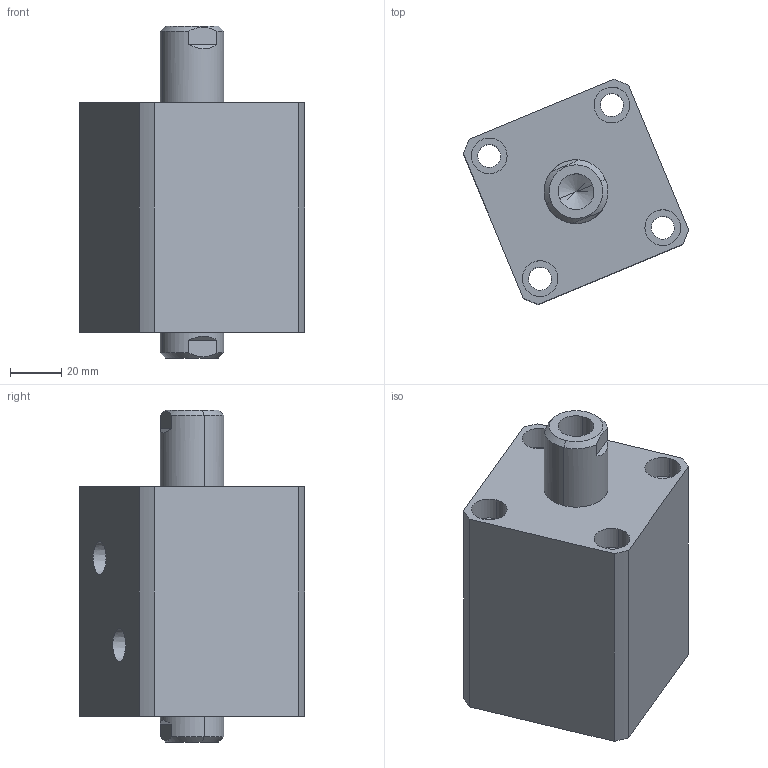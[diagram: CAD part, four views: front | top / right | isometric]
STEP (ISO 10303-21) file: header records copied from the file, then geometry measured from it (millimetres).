
FILE_DESCRIPTION (( 'STEP AP214' ), '1' );
FILE_NAME ('chtb-sw40x20n_asm.STEP', '2018-06-08T11:18:07', ( 'Windows' ), ( 'Microsoft' ), 'SwSTEP 2.0', 'SolidWorks 2015', '' );
FILE_SCHEMA (( 'AUTOMOTIVE_DESIGN' ));
Length unit declared in the file: millimetre
Products named in the file (4): CHTB-SW40X20NHSG; CHTB-SW40X20NBT; CHTB-SD40QG; chtb-sw40x20n_asm
Assembly tree (3 placements, depth 2):
  chtb-sw40x20n_asm
    CHTB-SD40QG
    CHTB-SW40X20NBT
    CHTB-SW40X20NHSG
Bounding box: 88.11 x 88.11 x 130 mm (x, y, z)
Volume: 399848.3 mm3; surface area: 81357 mm2
Topology: 3 solids, 3 shells, 167 faces, 429 edges, 282 vertices
Faces by surface type: cylinder 84, plane 40, cone 17, bspline 14, torus 12
Entity records: 10325 total; most frequent: CARTESIAN_POINT 6131, ORIENTED_EDGE 838, DIRECTION 822, EDGE_CURVE 419, AXIS2_PLACEMENT_3D 348, VERTEX_POINT 282, EDGE_LOOP 207, CIRCLE 189
